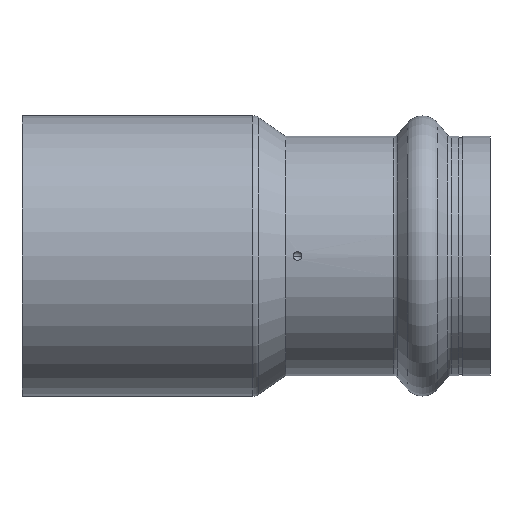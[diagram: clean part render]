
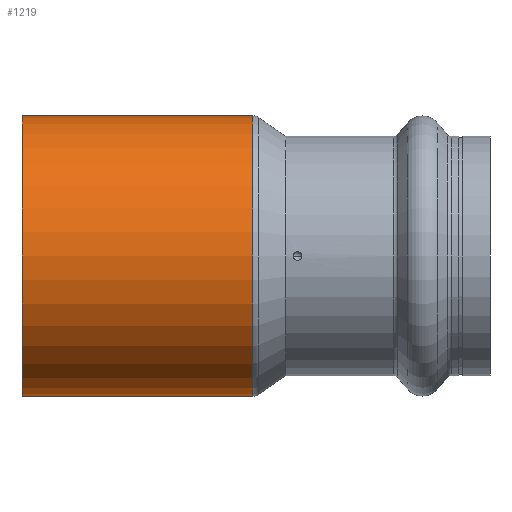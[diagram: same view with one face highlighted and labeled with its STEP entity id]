
A CAD part, front view. The second image highlights one B-rep face of the part: STEP entity #1219.
In plain terms, the highlighted cylindrical face has radius 27 mm (diameter 54 mm), a partial arc.
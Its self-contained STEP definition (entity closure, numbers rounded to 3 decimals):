
#5 = CARTESIAN_POINT ( 'NONE',  ( -4.079, 0., -27. ) ) ;
#14 = CARTESIAN_POINT ( 'NONE',  ( -4.079, 0., 27. ) ) ;
#18 = DIRECTION ( 'NONE',  ( -1., 0., 0. ) ) ;
#135 = DIRECTION ( 'NONE',  ( -1., 0., 0. ) ) ;
#184 = CIRCLE ( 'NONE', #591, 27. ) ;
#218 = EDGE_CURVE ( 'NONE', #389, #1380, #951, .T. ) ;
#270 = EDGE_CURVE ( 'NONE', #467, #389, #1191, .T. ) ;
#334 = CARTESIAN_POINT ( 'NONE',  ( 0., 0., 0. ) ) ;
#389 = VERTEX_POINT ( 'NONE', #1207 ) ;
#430 = ORIENTED_EDGE ( 'NONE', *, *, #1300, .T. ) ;
#453 = DIRECTION ( 'NONE',  ( -1., 0., 0. ) ) ;
#455 = FACE_OUTER_BOUND ( 'NONE', #1234, .T. ) ;
#467 = VERTEX_POINT ( 'NONE', #588 ) ;
#486 = ORIENTED_EDGE ( 'NONE', *, *, #218, .F. ) ;
#554 = ORIENTED_EDGE ( 'NONE', *, *, #787, .T. ) ;
#577 = VERTEX_POINT ( 'NONE', #652 ) ;
#584 = CARTESIAN_POINT ( 'NONE',  ( 0., 0., 27. ) ) ;
#588 = CARTESIAN_POINT ( 'NONE',  ( 44.369, 0., -27. ) ) ;
#591 = AXIS2_PLACEMENT_3D ( 'NONE', #1529, #1497, #1548 ) ;
#652 = CARTESIAN_POINT ( 'NONE',  ( 44.369, 0., 27. ) ) ;
#660 = VECTOR ( 'NONE', #135, 1000. ) ;
#680 = CARTESIAN_POINT ( 'NONE',  ( -4.079, 0., 0. ) ) ;
#787 = EDGE_CURVE ( 'NONE', #467, #577, #184, .T. ) ;
#880 = VECTOR ( 'NONE', #1236, 1000. ) ;
#951 = CIRCLE ( 'NONE', #1627, 27. ) ;
#993 = LINE ( 'NONE', #14, #660 ) ;
#1075 = DIRECTION ( 'NONE',  ( 0., 0., 1. ) ) ;
#1191 = LINE ( 'NONE', #5, #880 ) ;
#1207 = CARTESIAN_POINT ( 'NONE',  ( 0., 0., -27. ) ) ;
#1219 = ADVANCED_FACE ( 'NONE', ( #455 ), #1438, .T. ) ;
#1234 = EDGE_LOOP ( 'NONE', ( #1578, #554, #430, #486 ) ) ;
#1236 = DIRECTION ( 'NONE',  ( -1., 0., 0. ) ) ;
#1300 = EDGE_CURVE ( 'NONE', #577, #1380, #993, .T. ) ;
#1380 = VERTEX_POINT ( 'NONE', #584 ) ;
#1414 = DIRECTION ( 'NONE',  ( 0., 0., 1. ) ) ;
#1438 = CYLINDRICAL_SURFACE ( 'NONE', #1537, 27. ) ;
#1497 = DIRECTION ( 'NONE',  ( -1., 0., 0. ) ) ;
#1529 = CARTESIAN_POINT ( 'NONE',  ( 44.369, 0., 0. ) ) ;
#1537 = AXIS2_PLACEMENT_3D ( 'NONE', #680, #18, #1075 ) ;
#1548 = DIRECTION ( 'NONE',  ( 0., 0., -1. ) ) ;
#1578 = ORIENTED_EDGE ( 'NONE', *, *, #270, .F. ) ;
#1627 = AXIS2_PLACEMENT_3D ( 'NONE', #334, #453, #1414 ) ;
